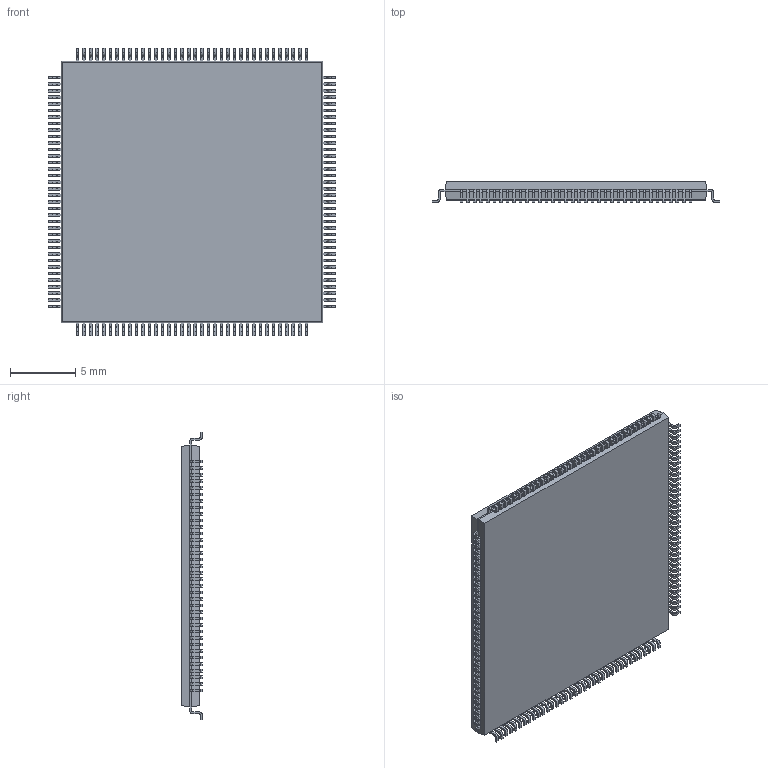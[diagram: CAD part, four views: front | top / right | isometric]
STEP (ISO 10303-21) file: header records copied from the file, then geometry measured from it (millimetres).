
FILE_DESCRIPTION (( 'STEP AP214' ), '1' );
FILE_NAME ('ATSAMV71Q21B-AAB.STEP', '2020-12-18T19:38:20', ( '' ), ( '' ), 'SwSTEP 2.0', 'SolidWorks 2018', '' );
FILE_SCHEMA (( 'AUTOMOTIVE_DESIGN' ));
Length unit declared in the file: millimetre
Products named in the file (1): ATSAMV71Q21B-AAB
Bounding box: 22 x 1.6 x 22 mm (x, y, z)
Volume: 563.2 mm3; surface area: 1075.3 mm2
Topology: 145 solids, 145 shells, 2030 faces, 5212 edges, 3472 vertices
Faces by surface type: plane 1454, cylinder 576
Entity records: 62734 total; most frequent: CARTESIAN_POINT 10715, DIRECTION 10426, ORIENTED_EDGE 10424, EDGE_CURVE 5212, VECTOR 4060, LINE 4060, VERTEX_POINT 3472, AXIS2_PLACEMENT_3D 3183
